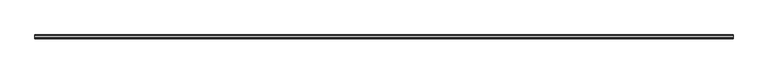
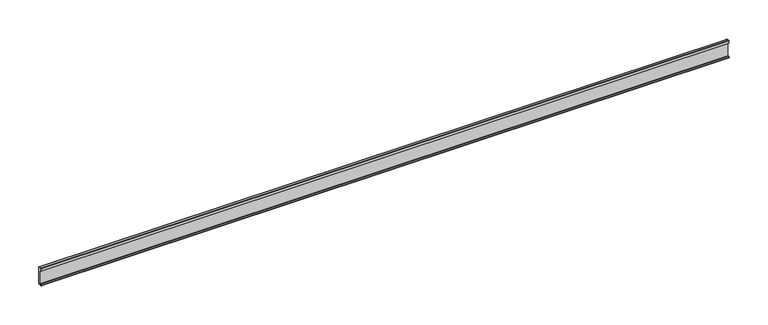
"""IFC4 building model written with IfcOpenShell, lengths in millimetres: proxy geometry, Weiku - Montante - Capa de folha 02.3.02.406 : Weiku - Montante - Capa de folha 02.3.02.406."""

from ifc_helpers import new_model, si_unit, point, frame, frame_2d, origin, place, context, project, spatial, polyline, circle_curve, trimmed, segment, composite_curve, outline, extrude, source, transform, mapped, element, save


def generic_models_5f09fe96(model_context):
    return source(origin(), model_context, "Body", "SweptSolid", [
        extrude(outline(composite_curve([segment(polyline([(-4.6421508, 2.2715508), (-3.3866, 1.016), (-1.6933, 1.016), (-1.6933, 25.684), (-3.3063, 25.684), (-3.3063, 22.3396), (-4.28, 22.3396), (-4.28, 26.2)]), True, "CONTINUOUS"), segment(trimmed(circle_curve(frame_2d((-3.78, 26.2)), 0.5), [point((-4.28, 26.2))], [point((-3.78, 26.7))], False, "CARTESIAN"), True, "CONTINUOUS"), segment(polyline([(-3.78, 26.7), (-0.5, 26.7)]), True, "CONTINUOUS"), segment(trimmed(circle_curve(frame_2d((-0.5, 26.2)), 0.5), [point((-0.5, 26.7))], [point((0.0, 26.2))], False, "CARTESIAN"), True, "CONTINUOUS"), segment(polyline([(0.0, 26.2), (0.0, 0.5)]), True, "CONTINUOUS"), segment(trimmed(circle_curve(frame_2d((-0.5, 0.5)), 0.5), [point((0.0, 0.5))], [point((-0.5, 0.0))], False, "CARTESIAN"), True, "CONTINUOUS"), segment(polyline([(-0.5, 0.0), (-4.7576991, 0.0)]), True, "CONTINUOUS"), segment(trimmed(circle_curve(frame_2d((-4.7576991, 0.7)), 0.7), [point((-4.7576991, 0.0))], [point((-5.3603515, 1.056104))], False, "CARTESIAN"), True, "CONTINUOUS"), segment(polyline([(-5.3603515, 1.056104), (-4.6421508, 2.2715508)]), True, "CONTINUOUS")], self_intersect=False)), frame((-510.4, 0.0, 0.0), z_axis=(1.0, 0.0, 0.0), x_axis=(0.0, 1.0, 0.0)), (0.0, 0.0, 1.0), 1020.8),
    ])


if __name__ == "__main__":
    model = new_model("IFC4")
    model_context = context("Model", 3, world=origin())
    ifc_project = project(units=[si_unit("LENGTHUNIT", "METRE", prefix="MILLI")], contexts=[model_context])
    site = spatial("IfcSite", under=ifc_project)
    building = spatial("IfcBuilding", under=site)
    placement = place(None, origin())
    generic_models_shape = generic_models_5f09fe96(model_context)
    element("IfcBuildingElementProxy", 1, Name="Weiku - Montante - Capa de folha 02.3.02.406 : Weiku - Montante - Capa de folha 02.3.02.406", ObjectType="Weiku - Montante - Capa de folha 02.3.02.406 : Weiku - Montante - Capa de folha 02.3.02.406", at=placement, inside=building, context=model_context, shape_type="MappedRepresentation", body=[
        mapped(generic_models_shape, transform((0.0, 0.0, 0.0), x_axis=(1.0, 0.0, 0.0), y_axis=(0.0, 1.0, 0.0), z_axis=(0.0, 0.0, 1.0))),
    ])
    save(model, "model.ifc")
